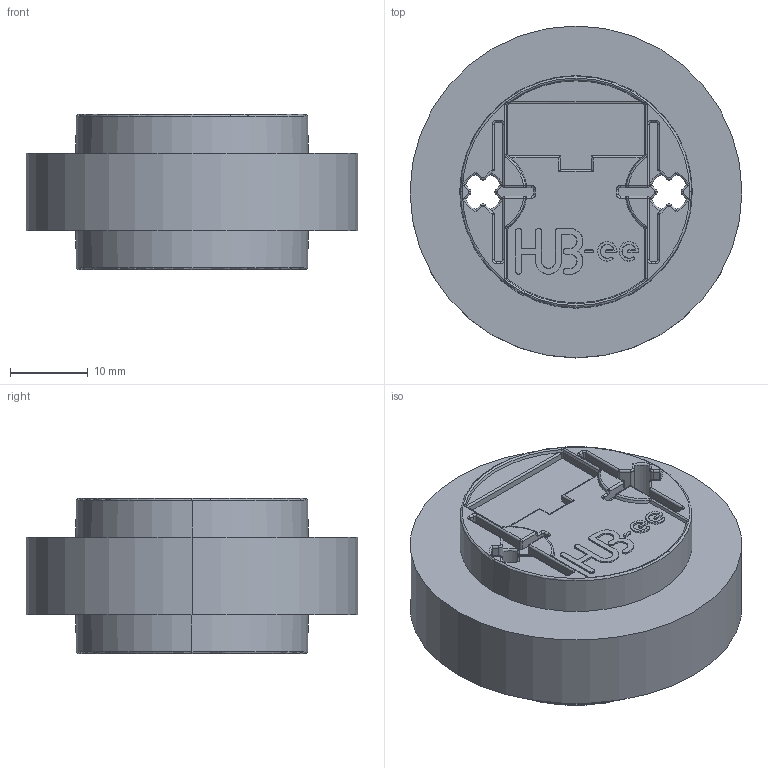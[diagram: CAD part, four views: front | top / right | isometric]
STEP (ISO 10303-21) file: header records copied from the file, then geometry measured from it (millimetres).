
FILE_DESCRIPTION (( 'STEP AP203' ), '1' );
FILE_NAME ('HUBee Core.STEP', '2013-02-22T16:40:13', ( 'tom' ), ( '' ), 'SwSTEP 2.0', 'SolidWorks 2011', '' );
FILE_SCHEMA (( 'CONFIG_CONTROL_DESIGN' ));
Length unit declared in the file: millimetre
Products named in the file (1): HUBee Core
Bounding box: 42.8 x 42.8 x 20 mm (x, y, z)
Volume: 19908 mm3; surface area: 6151.5 mm2
Topology: 1 solids, 1 shells, 578 faces, 1480 edges, 886 vertices
Faces by surface type: cylinder 172, plane 154, torus 92, cone 88, bspline 44, sphere 28
Entity records: 18041 total; most frequent: CARTESIAN_POINT 4161, DIRECTION 2994, ORIENTED_EDGE 2904, EDGE_CURVE 1452, AXIS2_PLACEMENT_3D 1179, VERTEX_POINT 886, CIRCLE 644, VECTOR 636
